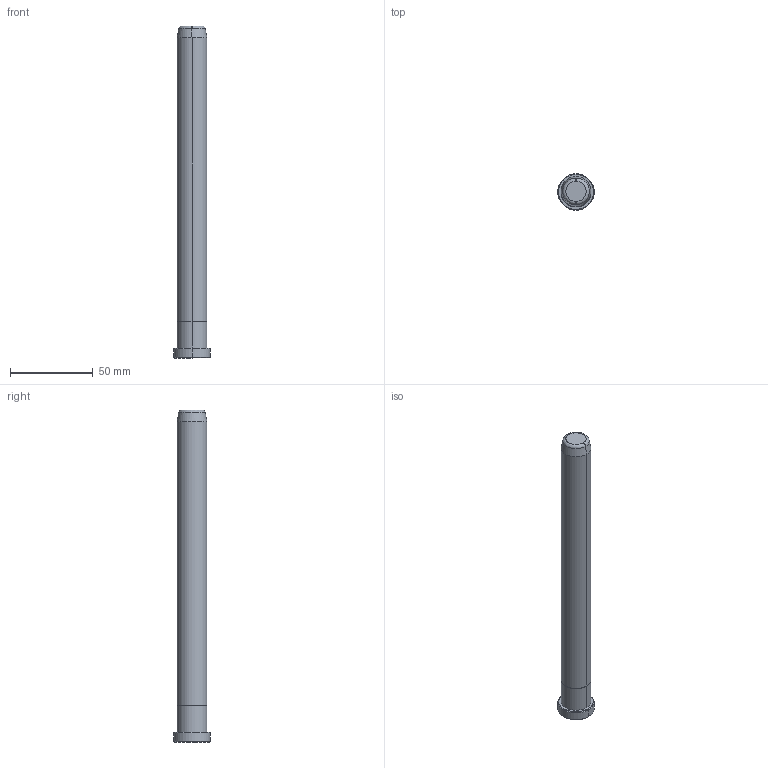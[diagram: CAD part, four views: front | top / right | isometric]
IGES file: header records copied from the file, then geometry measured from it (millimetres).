
Start section: START RECORD GO HERE.
Global section: file name: B82818200.igs; native system: DASSAULT SYSTEMES CATIA V5 R20 - www.3ds.com; preprocessor: CATIA Version 5 Release 20 ; author: Utente; organization: NB04-ASUS; date: 20200419.173520; units: millimetre
Bounding box: 22 x 22 x 200 mm (x, y, z)
Surface area: 11989.9 mm2 (no closed solid volume)
Topology: 0 solids, 0 shells, 20 faces, 80 edges, 80 vertices
Faces by surface type: revolution 16, plane 4
